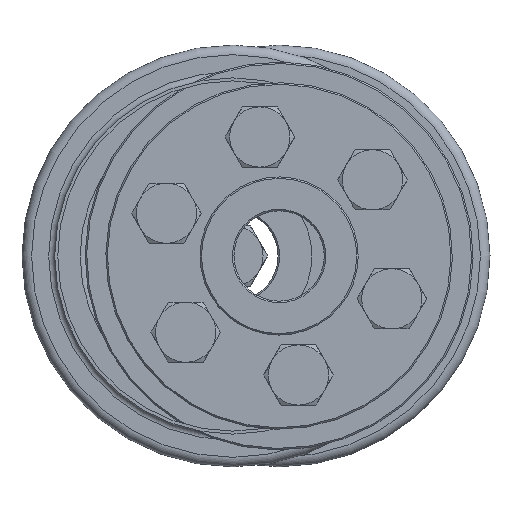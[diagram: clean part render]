
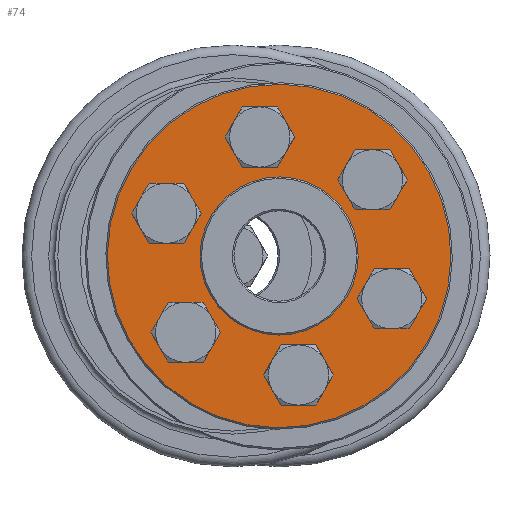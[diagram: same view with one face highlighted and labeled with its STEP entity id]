
A CAD part, left-side view. The second image highlights one B-rep face of the part: STEP entity #74.
In plain terms, the highlighted planar face has unit normal (-1, 0, 0).
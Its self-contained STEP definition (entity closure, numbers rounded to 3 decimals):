
#74 = ADVANCED_FACE( 'NONE', ( #145, #146, #147, #148, #149, #150, #151, #152 ), #153, .F. );
#145 = FACE_OUTER_BOUND( '', #257, .T. );
#146 = FACE_BOUND( '', #258, .T. );
#147 = FACE_BOUND( '', #259, .T. );
#148 = FACE_BOUND( '', #260, .T. );
#149 = FACE_BOUND( '', #261, .T. );
#150 = FACE_BOUND( '', #262, .T. );
#151 = FACE_BOUND( '', #263, .T. );
#152 = FACE_BOUND( '', #264, .T. );
#153 = PLANE( '', #265 );
#257 = EDGE_LOOP( '', ( #444 ) );
#258 = EDGE_LOOP( '', ( #445 ) );
#259 = EDGE_LOOP( '', ( #446 ) );
#260 = EDGE_LOOP( '', ( #447 ) );
#261 = EDGE_LOOP( '', ( #448 ) );
#262 = EDGE_LOOP( '', ( #449 ) );
#263 = EDGE_LOOP( '', ( #450 ) );
#264 = EDGE_LOOP( '', ( #451 ) );
#265 = AXIS2_PLACEMENT_3D( '', #452, #453, #454 );
#444 = ORIENTED_EDGE( '', *, *, #742, .T. );
#445 = ORIENTED_EDGE( '', *, *, #743, .T. );
#446 = ORIENTED_EDGE( '', *, *, #744, .T. );
#447 = ORIENTED_EDGE( '', *, *, #745, .T. );
#448 = ORIENTED_EDGE( '', *, *, #746, .T. );
#449 = ORIENTED_EDGE( '', *, *, #747, .T. );
#450 = ORIENTED_EDGE( '', *, *, #740, .T. );
#451 = ORIENTED_EDGE( '', *, *, #748, .F. );
#452 = CARTESIAN_POINT( '', ( 0., 10.5, 0. ) );
#453 = DIRECTION( '', ( 1., 0., 0. ) );
#454 = DIRECTION( '', ( 0., 1., 0. ) );
#740 = EDGE_CURVE( 'NONE', #988, #988, #989, .T. );
#742 = EDGE_CURVE( 'NONE', #991, #991, #992, .T. );
#743 = EDGE_CURVE( 'NONE', #993, #993, #994, .T. );
#744 = EDGE_CURVE( 'NONE', #995, #995, #996, .T. );
#745 = EDGE_CURVE( 'NONE', #997, #997, #998, .T. );
#746 = EDGE_CURVE( 'NONE', #999, #999, #1000, .T. );
#747 = EDGE_CURVE( 'NONE', #1001, #1001, #1002, .T. );
#748 = EDGE_CURVE( 'NONE', #1003, #1003, #1004, .T. );
#988 = VERTEX_POINT( '', #1445 );
#989 = CIRCLE( '', #1446, 2.75 );
#991 = VERTEX_POINT( '', #1448 );
#992 = CIRCLE( '', #1449, 22.8 );
#993 = VERTEX_POINT( '', #1450 );
#994 = CIRCLE( '', #1451, 2.75 );
#995 = VERTEX_POINT( '', #1452 );
#996 = CIRCLE( '', #1453, 2.75 );
#997 = VERTEX_POINT( '', #1454 );
#998 = CIRCLE( '', #1455, 2.75 );
#999 = VERTEX_POINT( '', #1456 );
#1000 = CIRCLE( '', #1457, 2.75 );
#1001 = VERTEX_POINT( '', #1458 );
#1002 = CIRCLE( '', #1459, 2.75 );
#1003 = VERTEX_POINT( '', #1460 );
#1004 = CIRCLE( '', #1461, 10.5 );
#1445 = CARTESIAN_POINT( '', ( 0., 16., -2.75 ) );
#1446 = AXIS2_PLACEMENT_3D( '', #1588, #1589, #1590 );
#1448 = CARTESIAN_POINT( '', ( 0., 0., -22.8 ) );
#1449 = AXIS2_PLACEMENT_3D( '', #1591, #1592, #1593 );
#1450 = CARTESIAN_POINT( '', ( 0., 8., 11.106 ) );
#1451 = AXIS2_PLACEMENT_3D( '', #1594, #1595, #1596 );
#1452 = CARTESIAN_POINT( '', ( 0., -8., 11.106 ) );
#1453 = AXIS2_PLACEMENT_3D( '', #1597, #1598, #1599 );
#1454 = CARTESIAN_POINT( '', ( 0., -16., -2.75 ) );
#1455 = AXIS2_PLACEMENT_3D( '', #1600, #1601, #1602 );
#1456 = CARTESIAN_POINT( '', ( 0., -8., -16.606 ) );
#1457 = AXIS2_PLACEMENT_3D( '', #1603, #1604, #1605 );
#1458 = CARTESIAN_POINT( '', ( 0., 8., -16.606 ) );
#1459 = AXIS2_PLACEMENT_3D( '', #1606, #1607, #1608 );
#1460 = CARTESIAN_POINT( '', ( 0., 0., 10.5 ) );
#1461 = AXIS2_PLACEMENT_3D( '', #1609, #1610, #1611 );
#1588 = CARTESIAN_POINT( '', ( 0., 16., 0. ) );
#1589 = DIRECTION( '', ( 1., 0., 0. ) );
#1590 = DIRECTION( '', ( 0., 0., -1. ) );
#1591 = CARTESIAN_POINT( '', ( 0., 0., 0. ) );
#1592 = DIRECTION( '', ( -1., 0., 0. ) );
#1593 = DIRECTION( '', ( 0., 0., -1. ) );
#1594 = CARTESIAN_POINT( '', ( 0., 8., 13.856 ) );
#1595 = DIRECTION( '', ( 1., 0., 0. ) );
#1596 = DIRECTION( '', ( 0., 0., -1. ) );
#1597 = CARTESIAN_POINT( '', ( 0., -8., 13.856 ) );
#1598 = DIRECTION( '', ( 1., 0., 0. ) );
#1599 = DIRECTION( '', ( 0., 0., -1. ) );
#1600 = CARTESIAN_POINT( '', ( 0., -16., 0. ) );
#1601 = DIRECTION( '', ( 1., 0., 0. ) );
#1602 = DIRECTION( '', ( 0., 0., -1. ) );
#1603 = CARTESIAN_POINT( '', ( 0., -8., -13.856 ) );
#1604 = DIRECTION( '', ( 1., 0., 0. ) );
#1605 = DIRECTION( '', ( 0., 0., -1. ) );
#1606 = CARTESIAN_POINT( '', ( 0., 8., -13.856 ) );
#1607 = DIRECTION( '', ( 1., 0., 0. ) );
#1608 = DIRECTION( '', ( 0., 0., -1. ) );
#1609 = CARTESIAN_POINT( '', ( 0., 0., 0. ) );
#1610 = DIRECTION( '', ( -1., 0., 0. ) );
#1611 = DIRECTION( '', ( 0., 0., 1. ) );
